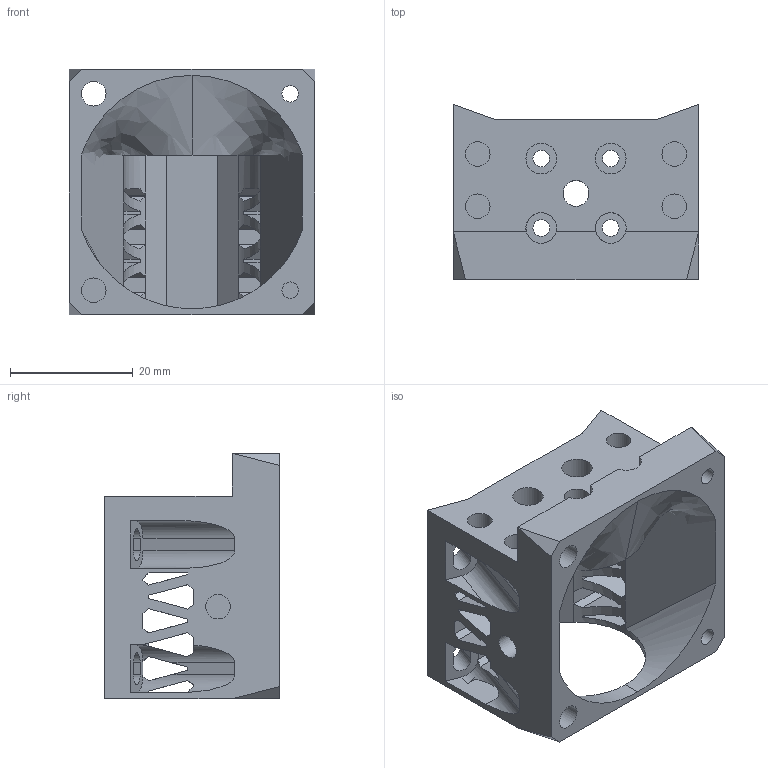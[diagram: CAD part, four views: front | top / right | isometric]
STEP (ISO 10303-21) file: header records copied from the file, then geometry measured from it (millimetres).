
FILE_DESCRIPTION(/* description */ ('CAx-IF Rec.Pracs.---Representation and Presentation of Product Manufacturing Information (PMI)---4.0---2014-10-13','CAx-IF Rec.Pracs.---3D Tessellated Geometry---0.4---2014-09-14','2;1'),/* implementation_level */ '2;1');
FILE_NAME(/* name */ 'Bereza 1 body for Volcano',/* time_stamp */ '2025-06-16T17:40:05+03:00',/* author */ (''),/* organization */ (''),/* preprocessor_version */ 'ST-DEVELOPER v20',/* originating_system */ 'SIEMENS PLM Software NX2406.6001',/* authorisation */ $);
FILE_SCHEMA (('AP242_MANAGED_MODEL_BASED_3D_ENGINEERING_MIM_LF { 1 0 10303 442 3 1 4 }'));
Length unit declared in the file: millimetre
Products named in the file (1): Bereza 1 body for Volcano
Bounding box: 40 x 28.49 x 40 mm (x, y, z)
Volume: 17153.6 mm3; surface area: 11348.2 mm2
Topology: 1 solids, 1 shells, 168 faces, 508 edges, 343 vertices
Faces by surface type: plane 127, cylinder 35, bspline 6
Full cylindrical faces by diameter (mm): 2.7 x6, 4 x7, 4.2 x1, 5 x4
Entity records: 6738 total; most frequent: CARTESIAN_POINT 2162, ORIENTED_EDGE 954, DIRECTION 900, EDGE_CURVE 477, VERTEX_POINT 330, AXIS2_PLACEMENT_3D 314, LINE 272, VECTOR 272
